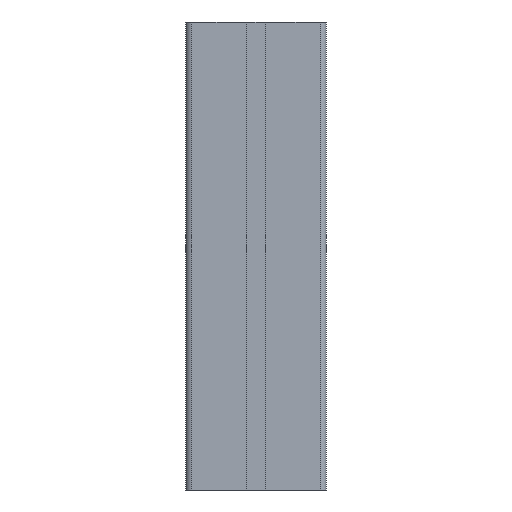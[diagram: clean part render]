
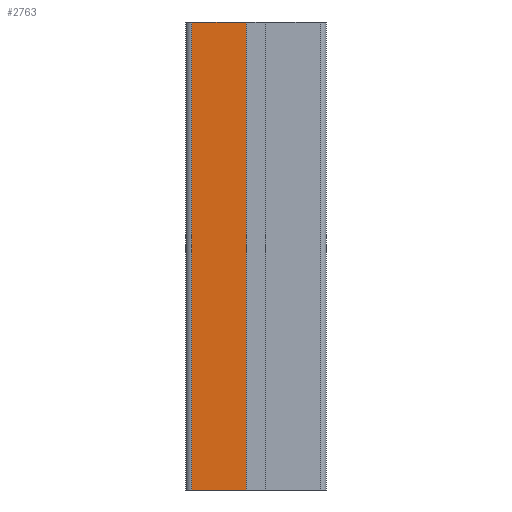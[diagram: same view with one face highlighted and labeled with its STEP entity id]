
A CAD part, left-side view. The second image highlights one B-rep face of the part: STEP entity #2763.
In plain terms, the highlighted planar face has unit normal (-1, 0, 0).
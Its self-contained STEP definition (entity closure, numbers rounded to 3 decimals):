
#121 = DIRECTION ( 'NONE',  ( 0., 0., -1. ) ) ;
#302 = ORIENTED_EDGE ( 'NONE', *, *, #2146, .T. ) ;
#520 = LINE ( 'NONE', #1104, #2834 ) ;
#606 = AXIS2_PLACEMENT_3D ( 'NONE', #2521, #1927, #121 ) ;
#624 = LINE ( 'NONE', #1565, #2934 ) ;
#1104 = CARTESIAN_POINT ( 'NONE',  ( -22.408, 28.222, 200. ) ) ;
#1176 = CARTESIAN_POINT ( 'NONE',  ( -22.408, 28.222, 200. ) ) ;
#1236 = EDGE_CURVE ( 'NONE', #2615, #2337, #3125, .T. ) ;
#1347 = CARTESIAN_POINT ( 'NONE',  ( -22.408, 28.222, 0. ) ) ;
#1419 = LINE ( 'NONE', #1176, #2931 ) ;
#1467 = DIRECTION ( 'NONE',  ( 0., 0., -1. ) ) ;
#1544 = CARTESIAN_POINT ( 'NONE',  ( -22.408, 28.222, 0. ) ) ;
#1565 = CARTESIAN_POINT ( 'NONE',  ( -22.408, 4.822, 200. ) ) ;
#1661 = EDGE_CURVE ( 'NONE', #3822, #2337, #624, .T. ) ;
#1873 = DIRECTION ( 'NONE',  ( 0., 0., -1. ) ) ;
#1927 = DIRECTION ( 'NONE',  ( 1., 0., 0. ) ) ;
#2042 = FACE_OUTER_BOUND ( 'NONE', #3135, .T. ) ;
#2091 = VERTEX_POINT ( 'NONE', #3248 ) ;
#2146 = EDGE_CURVE ( 'NONE', #2091, #2615, #1419, .T. ) ;
#2310 = DIRECTION ( 'NONE',  ( 0., -1., 0. ) ) ;
#2337 = VERTEX_POINT ( 'NONE', #3527 ) ;
#2424 = VECTOR ( 'NONE', #3458, 1000. ) ;
#2490 = CARTESIAN_POINT ( 'NONE',  ( -22.408, 4.822, 200. ) ) ;
#2521 = CARTESIAN_POINT ( 'NONE',  ( -22.408, 28.222, 200. ) ) ;
#2589 = ORIENTED_EDGE ( 'NONE', *, *, #1236, .T. ) ;
#2615 = VERTEX_POINT ( 'NONE', #1544 ) ;
#2763 = ADVANCED_FACE ( 'NONE', ( #2042 ), #3726, .F. ) ;
#2834 = VECTOR ( 'NONE', #2310, 1000. ) ;
#2931 = VECTOR ( 'NONE', #1467, 1000. ) ;
#2934 = VECTOR ( 'NONE', #1873, 1000. ) ;
#2971 = ORIENTED_EDGE ( 'NONE', *, *, #3559, .F. ) ;
#3125 = LINE ( 'NONE', #1347, #2424 ) ;
#3135 = EDGE_LOOP ( 'NONE', ( #2589, #3412, #2971, #302 ) ) ;
#3248 = CARTESIAN_POINT ( 'NONE',  ( -22.408, 28.222, 200. ) ) ;
#3412 = ORIENTED_EDGE ( 'NONE', *, *, #1661, .F. ) ;
#3458 = DIRECTION ( 'NONE',  ( 0., -1., 0. ) ) ;
#3527 = CARTESIAN_POINT ( 'NONE',  ( -22.408, 4.822, 0. ) ) ;
#3559 = EDGE_CURVE ( 'NONE', #2091, #3822, #520, .T. ) ;
#3726 = PLANE ( 'NONE',  #606 ) ;
#3822 = VERTEX_POINT ( 'NONE', #2490 ) ;
